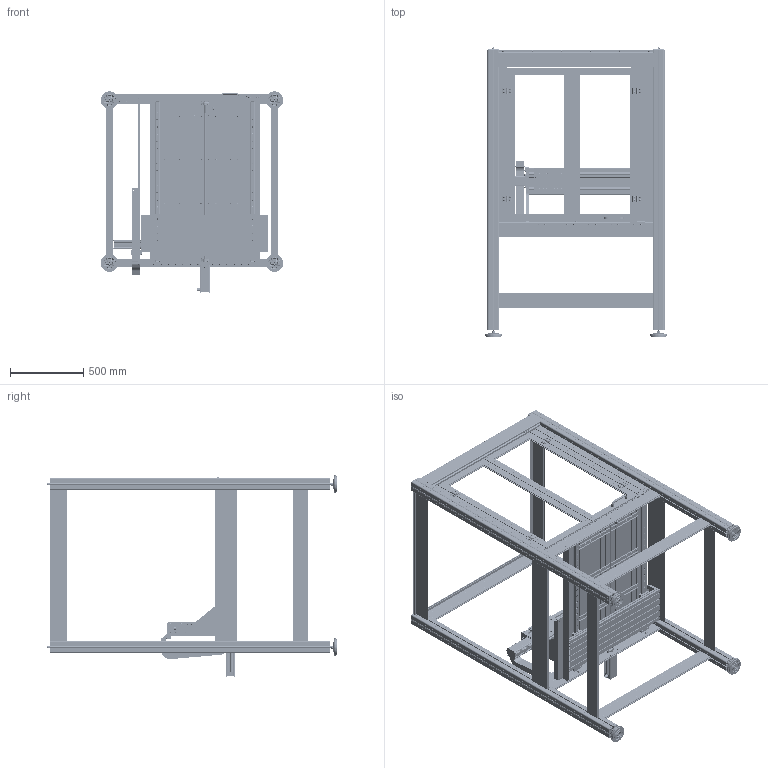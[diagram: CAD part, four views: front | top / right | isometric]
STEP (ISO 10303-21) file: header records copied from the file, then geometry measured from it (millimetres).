
FILE_DESCRIPTION (( 'STEP AP203' ), '1' );
FILE_NAME ('_-_X-Y Flachbetteinheit FB2 - ArtNr 246203 2040M - ArtNr 248500 0040 - ArtNr 248200 2040.step', '2015-04-23T05:58:06', ( '' ), ( '' ), 'SwSTEP 2.0', 'SolidWorks 2014', '' );
FILE_SCHEMA (( 'CONFIG_CONTROL_DESIGN' ));
Length unit declared in the file: millimetre
Products named in the file (8): Umhausung 750x1100; Umhausung Baugruppe_750x1100; _-_X-Y Flachbetteinheit FB2 - ArtNr 246203 2040M - ArtNr 248500 0040 - ArtNr 248200 2040; X-Y-Achse f黵 Verfahrweg 530; TE0060 - Schlittenplatte Vorschub 175mm; TE0179 - F黨rungsschlitten_F乭rungsschlitten f乺 KG-Mutter Typ25; Untergestell 750x1100_f〉 Umhausung; Untergestell Baugruppe_750x1100 - f〉 Umhausung
Assembly tree (8 placements, depth 3):
  _-_X-Y Flachbetteinheit FB2 - ArtNr 246203 2040M - ArtNr 248500 0040 - ArtNr 248200 2040
    X-Y-Achse f黵 Verfahrweg 530
    TE0060 - Schlittenplatte Vorschub 175mm
    TE0179 - F黨rungsschlitten_F乭rungsschlitten f乺 KG-Mutter Typ25  x2
    Untergestell Baugruppe_750x1100 - f〉 Umhausung
      Untergestell 750x1100_f〉 Umhausung
    Umhausung Baugruppe_750x1100
      Umhausung 750x1100
Bounding box: 1249.73 x 1989.05 x 1378.16 mm (x, y, z)
Volume: 55211415.8 mm3; surface area: 36295611.7 mm2
Topology: 535 solids, 535 shells, 19325 faces, 51137 edges, 33046 vertices
Faces by surface type: plane 11592, cylinder 5837, cone 1042, torus 659, sphere 190, bspline 5
Full cylindrical faces by diameter (mm): 1.5 x12, 2 x4, 2.33 x2, 2.4 x2, 2.5 x28, 3 x16, 3.2 x15, 3.3 x8, 3.7 x1, 4 x47, 4.2 x12, 4.3 x12, 4.5 x16, 4.6 x1, 4.8 x4, 4.819 x8, 5 x80, 5.2 x43, 5.5 x16, 6 x253, 6.1 x8, 6.35 x2, 6.4 x13, 6.5 x74, 6.6 x69, 7 x207, 7.2 x2, 7.5 x26, 8 x28, 8.4 x4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
Entity records: 612829 total; most frequent: CARTESIAN_POINT 159356, ORIENTED_EDGE 91920, DIRECTION 90942, EDGE_CURVE 45960, AXIS2_PLACEMENT_3D 31678, VERTEX_POINT 31366, VECTOR 27586, LINE 27586
